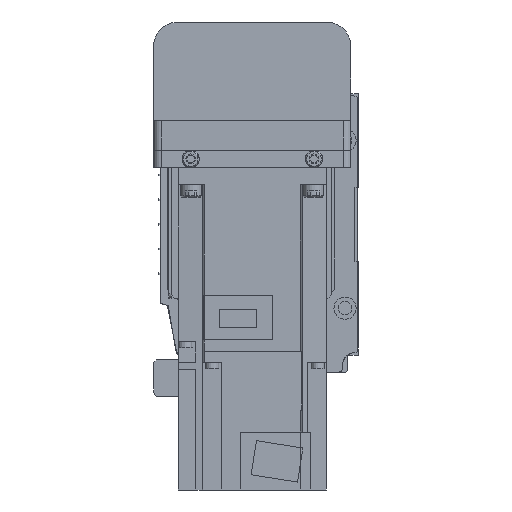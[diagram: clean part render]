
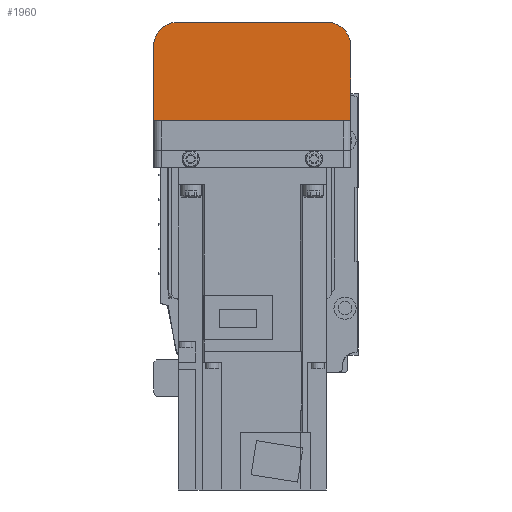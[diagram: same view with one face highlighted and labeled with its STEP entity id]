
A CAD part, left-side view. The second image highlights one B-rep face of the part: STEP entity #1960.
In plain terms, the highlighted planar face has unit normal (-1, 0, 0).
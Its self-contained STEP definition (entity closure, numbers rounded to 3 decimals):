
#1960 = ADVANCED_FACE( '', ( #4198 ), #4199, .F. );
#4198 = FACE_OUTER_BOUND( '', #6710, .T. );
#4199 = PLANE( '', #6711 );
#6710 = EDGE_LOOP( '', ( #12000, #12001, #12002, #12003, #12004, #12005 ) );
#6711 = AXIS2_PLACEMENT_3D( '', #12006, #12007, #12008 );
#12000 = ORIENTED_EDGE( '', *, *, #15377, .F. );
#12001 = ORIENTED_EDGE( '', *, *, #15387, .F. );
#12002 = ORIENTED_EDGE( '', *, *, #15719, .F. );
#12003 = ORIENTED_EDGE( '', *, *, #16196, .F. );
#12004 = ORIENTED_EDGE( '', *, *, #16077, .F. );
#12005 = ORIENTED_EDGE( '', *, *, #15489, .F. );
#12006 = CARTESIAN_POINT( '', ( -192., 37., 7. ) );
#12007 = DIRECTION( '', ( 1., 0., 0. ) );
#12008 = DIRECTION( '', ( 0., 0., -1. ) );
#15377 = EDGE_CURVE( '', #18773, #18775, #18776, .T. );
#15387 = EDGE_CURVE( '', #18788, #18773, #18790, .T. );
#15489 = EDGE_CURVE( '', #18775, #18946, #18947, .T. );
#15719 = EDGE_CURVE( '', #19273, #18788, #19275, .T. );
#16077 = EDGE_CURVE( '', #18946, #19758, #19759, .T. );
#16196 = EDGE_CURVE( '', #19758, #19273, #19899, .T. );
#18773 = VERTEX_POINT( '', #23260 );
#18775 = VERTEX_POINT( '', #23263 );
#18776 = LINE( '', #23264, #23265 );
#18788 = VERTEX_POINT( '', #23279 );
#18790 = LINE( '', #23282, #23283 );
#18946 = VERTEX_POINT( '', #23494 );
#18947 = LINE( '', #23495, #23496 );
#19273 = VERTEX_POINT( '', #23928 );
#19275 = CIRCLE( '', #23931, 10. );
#19758 = VERTEX_POINT( '', #24578 );
#19759 = CIRCLE( '', #24579, 10. );
#19899 = LINE( '', #24765, #24766 );
#23260 = CARTESIAN_POINT( '', ( -192., 40., -12.1 ) );
#23263 = CARTESIAN_POINT( '', ( -192., -40., -12.1 ) );
#23264 = CARTESIAN_POINT( '', ( -192., 50., -12.1 ) );
#23265 = VECTOR( '', #27001, 1000. );
#23279 = CARTESIAN_POINT( '', ( -192., 40., -42. ) );
#23282 = CARTESIAN_POINT( '', ( -192., 40., -42. ) );
#23283 = VECTOR( '', #27014, 1000. );
#23494 = CARTESIAN_POINT( '', ( -192., -40., -42. ) );
#23495 = CARTESIAN_POINT( '', ( -192., -40., -12.1 ) );
#23496 = VECTOR( '', #27130, 1000. );
#23928 = CARTESIAN_POINT( '', ( -192., 30., -52. ) );
#23931 = AXIS2_PLACEMENT_3D( '', #27391, #27392, #27393 );
#24578 = CARTESIAN_POINT( '', ( -192., -30., -52. ) );
#24579 = AXIS2_PLACEMENT_3D( '', #27813, #27814, #27815 );
#24765 = CARTESIAN_POINT( '', ( -192., -30., -52. ) );
#24766 = VECTOR( '', #27931, 1000. );
#27001 = DIRECTION( '', ( 0., -1., 0. ) );
#27014 = DIRECTION( '', ( 0., 0., 1. ) );
#27130 = DIRECTION( '', ( 0., 0., -1. ) );
#27391 = CARTESIAN_POINT( '', ( -192., 30., -42. ) );
#27392 = DIRECTION( '', ( 1., 0., 0. ) );
#27393 = DIRECTION( '', ( 0., 0., -1. ) );
#27813 = CARTESIAN_POINT( '', ( -192., -30., -42. ) );
#27814 = DIRECTION( '', ( 1., 0., 0. ) );
#27815 = DIRECTION( '', ( 0., 0., -1. ) );
#27931 = DIRECTION( '', ( 0., 1., 0. ) );
